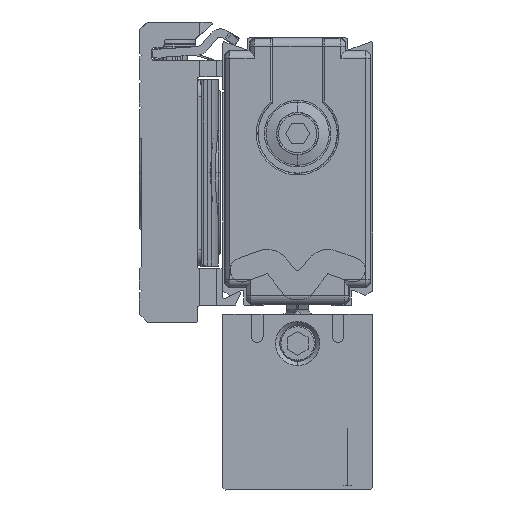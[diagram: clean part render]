
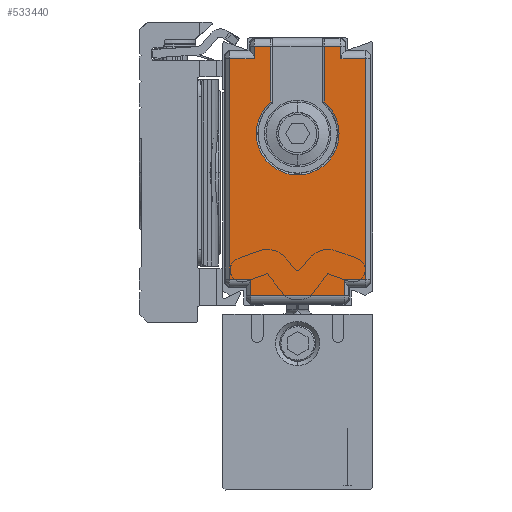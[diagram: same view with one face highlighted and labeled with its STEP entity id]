
A CAD part, left-side view. The second image highlights one B-rep face of the part: STEP entity #533440.
In plain terms, the highlighted planar face has unit normal (-1, 0, 0) as drawn and (0, 0, -1) by its records, which use the part's own axes.
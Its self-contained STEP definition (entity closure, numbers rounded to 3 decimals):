
#531350=CARTESIAN_POINT('',(29.865,18.802,-494.5));
#531360=VERTEX_POINT('',#531350);
#531810=CARTESIAN_POINT('',(3.435,18.802,-494.5));
#531820=VERTEX_POINT('',#531810);
#531870=CARTESIAN_POINT('',(3.435,18.802,-494.5));
#531880=CARTESIAN_POINT('',(7.84,18.802,-494.5));
#531890=CARTESIAN_POINT('',(12.245,18.802,-494.5));
#531900=CARTESIAN_POINT('',(21.055,18.802,-494.5));
#531910=CARTESIAN_POINT('',(25.46,18.802,-494.5));
#531920=CARTESIAN_POINT('',(29.865,18.802,-494.5));
#531930=B_SPLINE_CURVE_WITH_KNOTS('',3,(#531870,#531880,#531890,#531900,
#531910,#531920),.UNSPECIFIED.,.F.,.F.,(4,2,4),(24.334,
37.549,50.764),.UNSPECIFIED.);
#531940=EDGE_CURVE('',#531820,#531360,#531930,.T.);
#532060=CARTESIAN_POINT('',(16.65,27.,-494.5));
#532070=DIRECTION('',(0.,0.,1.));
#532080=DIRECTION('',(0.,1.,0.));
#532090=AXIS2_PLACEMENT_3D('',#532060,#532070,#532080);
#532100=PLANE('',#532090);
#532110=CARTESIAN_POINT('',(20.9,27.,-494.5));
#532120=DIRECTION('',(0.,0.,-1.));
#532130=DIRECTION('',(0.,1.,0.));
#532140=AXIS2_PLACEMENT_3D('',#532110,#532120,#532130);
#532150=CIRCLE('',#532140,4.974);
#532160=CARTESIAN_POINT('',(24.688,23.776,-494.5));
#532170=VERTEX_POINT('',#532160);
#532180=CARTESIAN_POINT('',(24.688,30.224,-494.5));
#532190=VERTEX_POINT('',#532180);
#532200=EDGE_CURVE('',#532170,#532190,#532150,.T.);
#532210=ORIENTED_EDGE('',*,*,#532200,.F.);
#532220=CARTESIAN_POINT('',(0.15,30.224,-494.5));
#532230=DIRECTION('',(1.,0.,0.));
#532240=VECTOR('',#532230,1.);
#532250=LINE('',#532220,#532240);
#532260=CARTESIAN_POINT('',(31.365,30.224,-494.5));
#532270=VERTEX_POINT('',#532260);
#532280=EDGE_CURVE('',#532190,#532270,#532250,.T.);
#532290=ORIENTED_EDGE('',*,*,#532280,.F.);
#532300=CARTESIAN_POINT('',(31.365,35.75,-494.5));
#532310=DIRECTION('',(0.,-1.,0.));
#532320=VECTOR('',#532310,1.);
#532330=LINE('',#532300,#532320);
#532340=CARTESIAN_POINT('',(31.365,32.198,-494.5));
#532350=VERTEX_POINT('',#532340);
#532360=EDGE_CURVE('',#532350,#532270,#532330,.T.);
#532370=ORIENTED_EDGE('',*,*,#532360,.T.);
#532380=CARTESIAN_POINT('',(29.365,32.198,-494.5));
#532390=CARTESIAN_POINT('',(29.782,32.198,-494.5));
#532400=CARTESIAN_POINT('',(30.198,32.198,-494.5));
#532410=CARTESIAN_POINT('',(30.865,32.198,-494.5));
#532420=CARTESIAN_POINT('',(31.115,32.198,-494.5));
#532430=CARTESIAN_POINT('',(31.365,32.198,-494.5));
#532440=B_SPLINE_CURVE_WITH_KNOTS('',3,(#532380,#532390,#532400,#532410,
#532420,#532430),.UNSPECIFIED.,.F.,.F.,(4,2,4),(37.587,
38.837,39.587),.UNSPECIFIED.);
#532450=CARTESIAN_POINT('',(29.865,32.198,-494.5));
#532460=VERTEX_POINT('',#532450);
#532470=EDGE_CURVE('',#532460,#532350,#532440,.T.);
#532480=ORIENTED_EDGE('',*,*,#532470,.T.);
#532490=CARTESIAN_POINT('',(29.865,35.75,-494.5));
#532500=DIRECTION('',(0.,1.,0.));
#532510=VECTOR('',#532500,1.);
#532520=LINE('',#532490,#532510);
#532530=CARTESIAN_POINT('',(29.865,35.198,-494.5));
#532540=VERTEX_POINT('',#532530);
#532550=EDGE_CURVE('',#532460,#532540,#532520,.T.);
#532560=ORIENTED_EDGE('',*,*,#532550,.F.);
#532570=CARTESIAN_POINT('',(3.435,35.198,-494.5));
#532580=CARTESIAN_POINT('',(7.84,35.198,-494.5));
#532590=CARTESIAN_POINT('',(12.245,35.198,-494.5));
#532600=CARTESIAN_POINT('',(21.055,35.198,-494.5));
#532610=CARTESIAN_POINT('',(25.46,35.198,-494.5));
#532620=CARTESIAN_POINT('',(29.865,35.198,-494.5));
#532630=B_SPLINE_CURVE_WITH_KNOTS('',3,(#532570,#532580,#532590,#532600,
#532610,#532620),.UNSPECIFIED.,.F.,.F.,(4,2,4),(24.308,
37.523,50.738),.UNSPECIFIED.);
#532640=CARTESIAN_POINT('',(3.435,35.198,-494.5));
#532650=VERTEX_POINT('',#532640);
#532660=EDGE_CURVE('',#532650,#532540,#532630,.T.);
#532670=ORIENTED_EDGE('',*,*,#532660,.T.);
#532680=CARTESIAN_POINT('',(3.435,35.75,-494.5));
#532690=DIRECTION('',(0.,1.,0.));
#532700=VECTOR('',#532690,1.);
#532710=LINE('',#532680,#532700);
#532720=CARTESIAN_POINT('',(3.435,32.648,-494.5));
#532730=VERTEX_POINT('',#532720);
#532740=EDGE_CURVE('',#532730,#532650,#532710,.T.);
#532750=ORIENTED_EDGE('',*,*,#532740,.T.);
#532760=CARTESIAN_POINT('',(3.935,32.648,-494.5));
#532770=CARTESIAN_POINT('',(3.435,32.648,-494.5));
#532780=CARTESIAN_POINT('',(2.935,32.648,-494.5));
#532790=CARTESIAN_POINT('',(2.102,32.648,-494.5));
#532800=CARTESIAN_POINT('',(1.768,32.648,-494.5));
#532810=CARTESIAN_POINT('',(1.435,32.648,-494.5));
#532820=B_SPLINE_CURVE_WITH_KNOTS('',3,(#532760,#532770,#532780,#532790,
#532800,#532810),.UNSPECIFIED.,.F.,.F.,(4,2,4),(37.084,
38.584,39.584),.UNSPECIFIED.);
#532830=CARTESIAN_POINT('',(1.435,32.648,-494.5));
#532840=VERTEX_POINT('',#532830);
#532850=EDGE_CURVE('',#532730,#532840,#532820,.T.);
#532860=ORIENTED_EDGE('',*,*,#532850,.F.);
#532870=CARTESIAN_POINT('',(1.435,35.75,-494.5));
#532880=DIRECTION('',(0.,1.,0.));
#532890=VECTOR('',#532880,1.);
#532900=LINE('',#532870,#532890);
#532910=CARTESIAN_POINT('',(1.435,21.352,-494.5));
#532920=VERTEX_POINT('',#532910);
#532930=EDGE_CURVE('',#532920,#532840,#532900,.T.);
#532940=ORIENTED_EDGE('',*,*,#532930,.T.);
#532950=CARTESIAN_POINT('',(3.935,21.352,-494.5));
#532960=CARTESIAN_POINT('',(3.435,21.352,-494.5));
#532970=CARTESIAN_POINT('',(2.935,21.352,-494.5));
#532980=CARTESIAN_POINT('',(2.102,21.352,-494.5));
#532990=CARTESIAN_POINT('',(1.768,21.352,-494.5));
#533000=CARTESIAN_POINT('',(1.435,21.352,-494.5));
#533010=B_SPLINE_CURVE_WITH_KNOTS('',3,(#532950,#532960,#532970,#532980,
#532990,#533000),.UNSPECIFIED.,.F.,.F.,(4,2,4),(37.084,
38.584,39.584),.UNSPECIFIED.);
#533020=CARTESIAN_POINT('',(3.435,21.352,-494.5));
#533030=VERTEX_POINT('',#533020);
#533040=EDGE_CURVE('',#533030,#532920,#533010,.T.);
#533050=ORIENTED_EDGE('',*,*,#533040,.T.);
#533060=CARTESIAN_POINT('',(3.435,35.75,-494.5));
#533070=DIRECTION('',(0.,-1.,0.));
#533080=VECTOR('',#533070,1.);
#533090=LINE('',#533060,#533080);
#533100=EDGE_CURVE('',#533030,#531820,#533090,.T.);
#533110=ORIENTED_EDGE('',*,*,#533100,.F.);
#533120=ORIENTED_EDGE('',*,*,#531940,.F.);
#533130=CARTESIAN_POINT('',(29.865,35.75,-494.5));
#533140=DIRECTION('',(0.,-1.,0.));
#533150=VECTOR('',#533140,1.);
#533160=LINE('',#533130,#533150);
#533170=CARTESIAN_POINT('',(29.865,21.802,-494.5));
#533180=VERTEX_POINT('',#533170);
#533190=EDGE_CURVE('',#533180,#531360,#533160,.T.);
#533200=ORIENTED_EDGE('',*,*,#533190,.T.);
#533210=CARTESIAN_POINT('',(29.365,21.802,-494.5));
#533220=CARTESIAN_POINT('',(29.782,21.802,-494.5));
#533230=CARTESIAN_POINT('',(30.198,21.802,-494.5));
#533240=CARTESIAN_POINT('',(30.865,21.802,-494.5));
#533250=CARTESIAN_POINT('',(31.115,21.802,-494.5));
#533260=CARTESIAN_POINT('',(31.365,21.802,-494.5));
#533270=B_SPLINE_CURVE_WITH_KNOTS('',3,(#533210,#533220,#533230,#533240,
#533250,#533260),.UNSPECIFIED.,.F.,.F.,(4,2,4),(37.587,
38.837,39.587),.UNSPECIFIED.);
#533280=CARTESIAN_POINT('',(31.365,21.802,-494.5));
#533290=VERTEX_POINT('',#533280);
#533300=EDGE_CURVE('',#533180,#533290,#533270,.T.);
#533310=ORIENTED_EDGE('',*,*,#533300,.F.);
#533320=CARTESIAN_POINT('',(31.365,23.776,-494.5));
#533330=VERTEX_POINT('',#533320);
#533340=EDGE_CURVE('',#533330,#533290,#532330,.T.);
#533350=ORIENTED_EDGE('',*,*,#533340,.T.);
#533360=CARTESIAN_POINT('',(0.15,23.776,-494.5));
#533370=DIRECTION('',(-1.,0.,0.));
#533380=VECTOR('',#533370,1.);
#533390=LINE('',#533360,#533380);
#533400=EDGE_CURVE('',#533330,#532170,#533390,.T.);
#533410=ORIENTED_EDGE('',*,*,#533400,.F.);
#533420=EDGE_LOOP('',(#533410,#533350,#533310,#533200,#533120,#533110,
#533050,#532940,#532860,#532750,#532670,#532560,#532480,#532370,#532290,
#532210));
#533430=FACE_OUTER_BOUND('',#533420,.T.);
#533440=ADVANCED_FACE('',(#533430),#532100,.F.);
